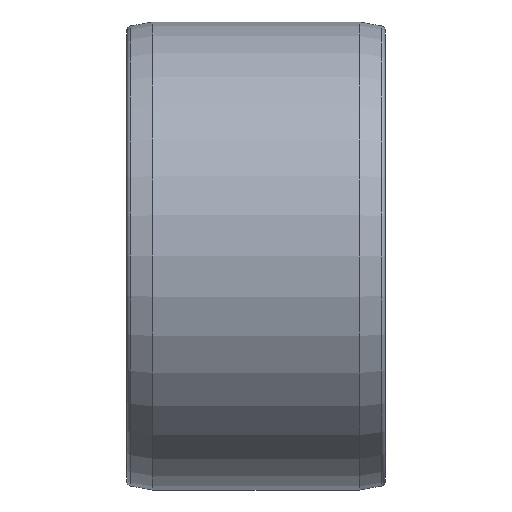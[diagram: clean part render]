
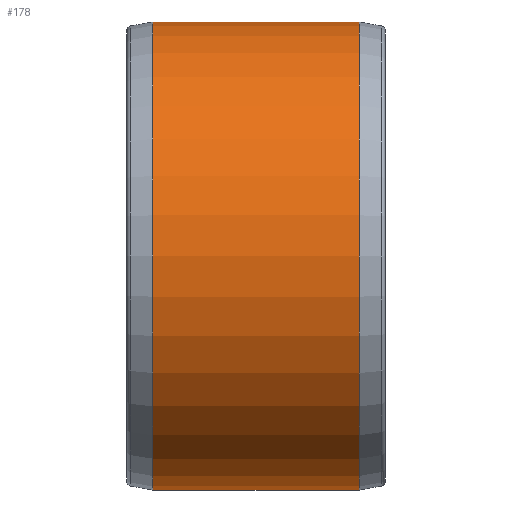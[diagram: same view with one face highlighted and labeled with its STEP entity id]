
A CAD part, front view. The second image highlights one B-rep face of the part: STEP entity #178.
In plain terms, the highlighted cylindrical face has radius 62.5 mm (diameter 125 mm), a full revolution.
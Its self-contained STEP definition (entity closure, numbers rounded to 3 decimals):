
#20=CYLINDRICAL_SURFACE('',#210,62.5);
#38=FACE_BOUND('',#82,.T.);
#53=FACE_OUTER_BOUND('',#81,.T.);
#81=EDGE_LOOP('',(#156));
#82=EDGE_LOOP('',(#157));
#92=CIRCLE('',#196,62.5);
#98=CIRCLE('',#207,62.5);
#107=VERTEX_POINT('',#296);
#113=VERTEX_POINT('',#313);
#122=EDGE_CURVE('',#107,#107,#92,.T.);
#128=EDGE_CURVE('',#113,#113,#98,.T.);
#156=ORIENTED_EDGE('',*,*,#122,.F.);
#157=ORIENTED_EDGE('',*,*,#128,.F.);
#178=ADVANCED_FACE('',(#53,#38),#20,.T.);
#196=AXIS2_PLACEMENT_3D('',#297,#242,#243);
#207=AXIS2_PLACEMENT_3D('',#314,#264,#265);
#210=AXIS2_PLACEMENT_3D('',#318,#270,#271);
#242=DIRECTION('center_axis',(1.,0.,0.));
#243=DIRECTION('ref_axis',(0.,0.,-1.));
#264=DIRECTION('center_axis',(-1.,0.,0.));
#265=DIRECTION('ref_axis',(0.,-1.,0.));
#270=DIRECTION('center_axis',(1.,0.,0.));
#271=DIRECTION('ref_axis',(0.,1.,0.));
#296=CARTESIAN_POINT('',(-6.9,62.5,0.));
#297=CARTESIAN_POINT('Origin',(-6.9,0.,0.));
#313=CARTESIAN_POINT('',(-62.1,62.5,0.));
#314=CARTESIAN_POINT('Origin',(-62.1,0.,0.));
#318=CARTESIAN_POINT('Origin',(-37.95,0.,0.));
